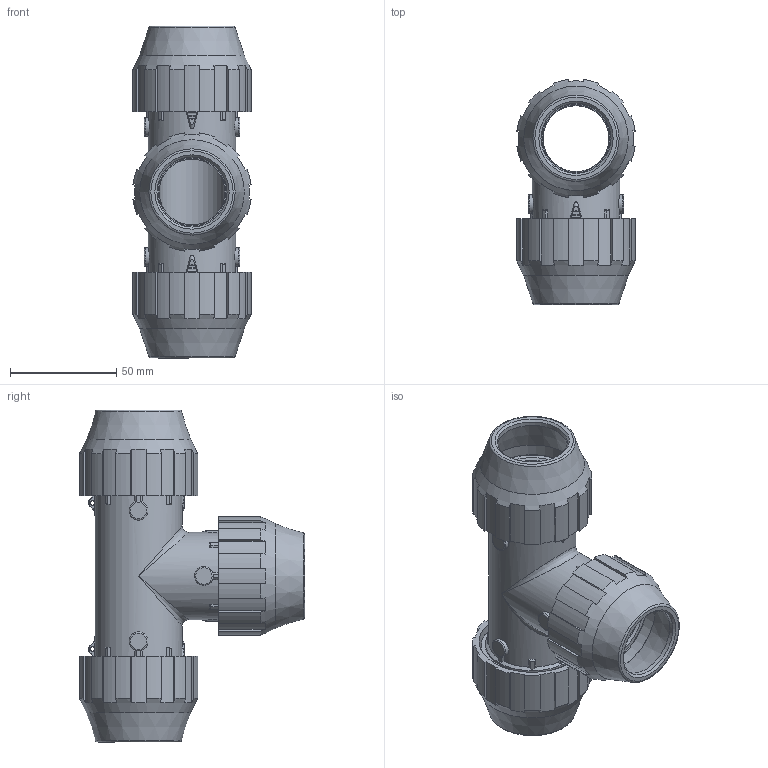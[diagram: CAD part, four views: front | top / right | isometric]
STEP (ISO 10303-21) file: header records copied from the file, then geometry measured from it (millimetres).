
FILE_DESCRIPTION( ( 'STEP AP214' ), '1' );
FILE_NAME( ' ', ' ', ( ' ' ), ( ' ' ), 'PSStep 11.0', 'VISI 17.0', ' ' );
FILE_SCHEMA( ( 'AUTOMOTIVE_DESIGN { 1 0 10303 214 1 1 1 1 }' ) );
Length unit declared in the file: millimetre
Products named in the file (17): 1; 2; 3; 4; 5; 6; 7; 8; 9; 10; 11; 12; 13; 14; 15; 16; 17
Bounding box: 55.52 x 105.76 x 156 mm (x, y, z)
Volume: 156366.5 mm3; surface area: 110682.1 mm2
Topology: 17 solids, 17 shells, 515 faces, 1373 edges, 884 vertices
Faces by surface type: plane 234, cylinder 185, bspline 46, cone 25, torus 25
Full cylindrical faces by diameter (mm): 2 x2, 8.842 x6, 31 x2, 32.9 x6, 38 x3, 41 x2, 44 x3, 46 x2, 50 x5
Entity records: 24377 total; most frequent: CARTESIAN_POINT 7849, DIRECTION 2564, ORIENTED_EDGE 2476, EDGE_CURVE 1238, AXIS2_PLACEMENT_3D 1010, VERTEX_POINT 846, EDGE_LOOP 622, FACE_OUTER_BOUND 567
